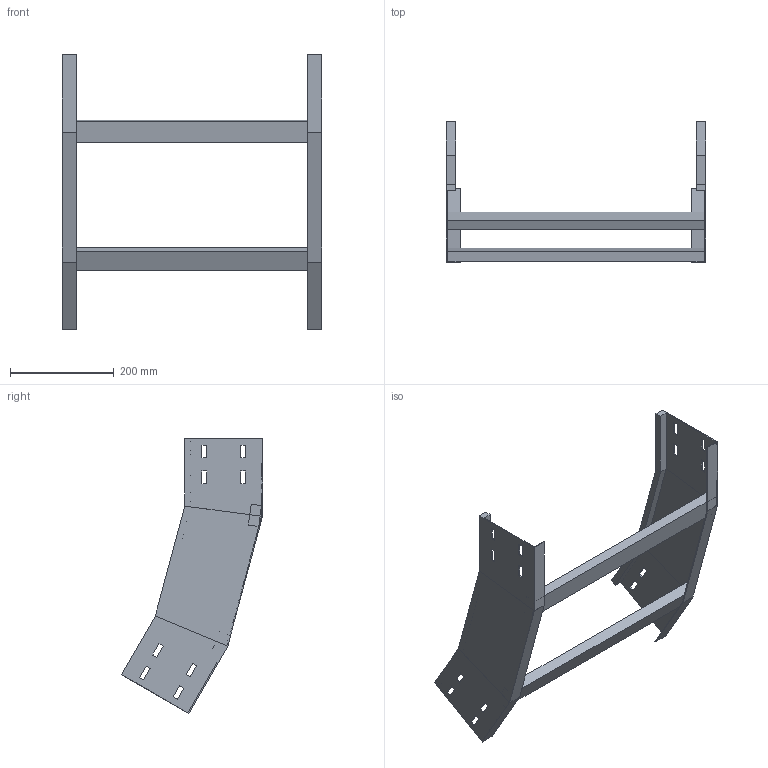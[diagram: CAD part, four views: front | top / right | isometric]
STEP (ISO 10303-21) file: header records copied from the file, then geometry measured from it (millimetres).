
FILE_DESCRIPTION (( 'STEP AP214' ), '1' );
FILE_NAME ('32J5F500.step', '2025-02-21T16:25:50', ( '' ), ( '' ), 'SwSTEP 2.0', 'SolidWorks 2023', '' );
FILE_SCHEMA (( 'AUTOMOTIVE_DESIGN' ));
Length unit declared in the file: millimetre
Products named in the file (3): LONGH.SALITA_30°_H150_R500; 32J5F500; TRAVERSINO_500
Assembly tree (4 placements, depth 2):
  32J5F500
    LONGH.SALITA_30°_H150_R500  x2
    TRAVERSINO_500  x2
Bounding box: 500 x 271.94 x 530.08 mm (x, y, z)
Volume: 1349406.5 mm3; surface area: 523044.7 mm2
Topology: 4 solids, 4 shells, 128 faces, 328 edges, 208 vertices
Faces by surface type: plane 128
Entity records: 2016 total; most frequent: CARTESIAN_POINT 339, ORIENTED_EDGE 328, DIRECTION 306, LINE 164, EDGE_CURVE 164, VECTOR 164, VERTEX_POINT 104, EDGE_LOOP 80
